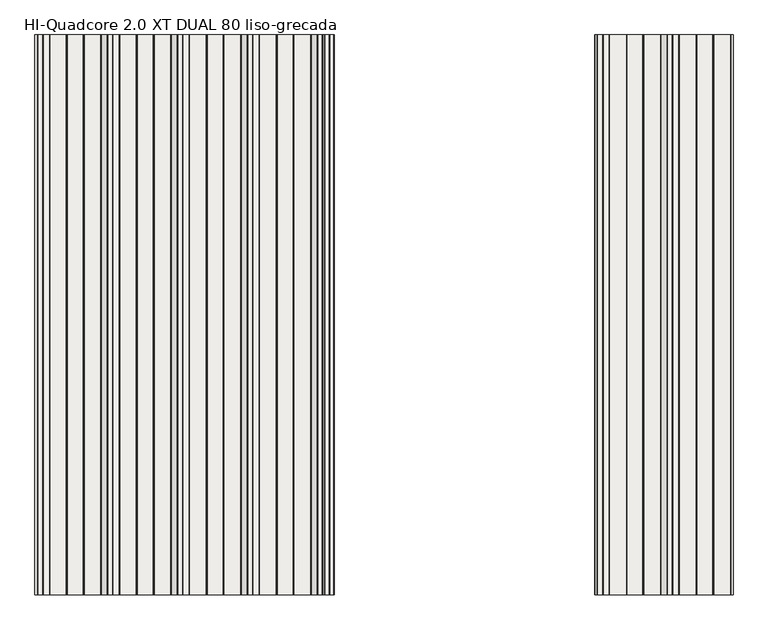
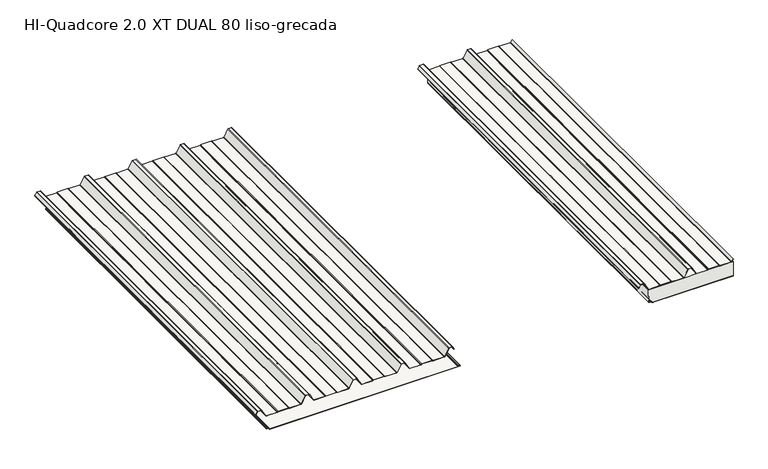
"""IFC4 building model written with IfcOpenShell, lengths in millimetres: slab geometry, HI_QuadCore2.0XT-XT DUAL : HI-Quadcore 2.0 XT DUAL 80 liso-grecada."""

from ifc_helpers import new_model, si_unit, point, frame, frame_2d, origin, place, context, project, spatial, polyline, circle_curve, trimmed, segment, composite_curve, outline, extrude, source, transform, mapped, element, save
from ifc_brep_helpers import plane_surface, cylinder_surface, revolved_surface, advanced_brep


def hi_quadcore_2_0_xt_dual_80_liso_grecada_9f1d5c36(model_context):
    return source(origin(), model_context, "Body", "SolidModel", [
        extrude(outline(composite_curve([segment(polyline([(118.1649405, 2138.5141429), (103.6579587, 2130.3539656)]), True, "CONTINUOUS"), segment(trimmed(circle_curve(frame_2d((103.0451321, 2131.443435)), 1.25), [point((103.6579587, 2130.3539656))], [point((102.689225, 2132.6416963))], False, "CARTESIAN"), True, "CONTINUOUS"), segment(polyline([(102.689225, 2132.6416963), (105.7359115, 2133.437141), (105.9380053, 2132.663088), (102.9074492, 2131.8718547)]), True, "CONTINUOUS"), segment(trimmed(circle_curve(frame_2d((103.0451321, 2131.443435)), 0.45), [point((102.9074492, 2131.8718547))], [point((103.2657497, 2131.051226))], True, "CARTESIAN"), True, "CONTINUOUS"), segment(polyline([(103.2657497, 2131.051226), (117.7727315, 2139.2114033)]), True, "CONTINUOUS"), segment(trimmed(circle_curve(frame_2d((116.4, 2141.6518148)), 2.8), [point((117.7727315, 2139.2114033))], [point((119.2, 2141.6518148))], True, "CARTESIAN"), True, "CONTINUOUS"), segment(polyline([(119.2, 2141.6518148), (119.2, 2158.9311117)]), True, "CONTINUOUS"), segment(trimmed(circle_curve(frame_2d((116.4, 2158.9311117)), 2.8), [point((119.2, 2158.9311117))], [point((117.5457267, 2161.4859719))], True, "CARTESIAN"), True, "CONTINUOUS"), segment(polyline([(117.5457267, 2161.4859719), (81.2048889, 2181.3052775)]), True, "CONTINUOUS"), segment(trimmed(circle_curve(frame_2d((83.0, 2184.6545425)), 3.8), [point((81.2048889, 2181.3052775))], [point((79.2, 2184.6545425))], False, "CARTESIAN"), True, "CONTINUOUS"), segment(polyline([(79.2, 2184.6545425), (79.2, 2242.4489557)]), True, "CONTINUOUS"), segment(trimmed(circle_curve(frame_2d((83.0, 2242.4489557)), 3.8), [point((79.2, 2242.4489557))], [point((79.6973596, 2244.328468))], False, "CARTESIAN"), True, "CONTINUOUS"), segment(polyline([(79.6973596, 2244.328468), (80.912055, 2246.4629056)]), True, "CONTINUOUS"), segment(trimmed(circle_curve(frame_2d((79.0, 2247.5510443)), 2.2), [point((80.912055, 2246.4629056))], [point((81.2, 2247.5510443))], True, "CARTESIAN"), True, "CONTINUOUS"), segment(polyline([(81.2, 2247.5510443), (81.2, 2302.4489557)]), True, "CONTINUOUS"), segment(trimmed(circle_curve(frame_2d((79.0, 2302.4489557)), 2.2), [point((81.2, 2302.4489557))], [point((80.912055, 2303.5370944))], True, "CARTESIAN"), True, "CONTINUOUS"), segment(polyline([(80.912055, 2303.5370944), (79.6973596, 2305.671532)]), True, "CONTINUOUS"), segment(trimmed(circle_curve(frame_2d((83.0, 2307.5510443)), 3.8), [point((79.6973596, 2305.671532))], [point((79.2, 2307.5510443))], False, "CARTESIAN"), True, "CONTINUOUS"), segment(polyline([(79.2, 2307.5510443), (79.2, 2365.7454575)]), True, "CONTINUOUS"), segment(trimmed(circle_curve(frame_2d((83.0, 2365.7454575)), 3.8), [point((79.2, 2365.7454575))], [point((81.1370073, 2369.0574446))], False, "CARTESIAN"), True, "CONTINUOUS"), segment(polyline([(81.1370073, 2369.0574446), (118.0785747, 2389.8370763)]), True, "CONTINUOUS"), segment(trimmed(circle_curve(frame_2d((117.0, 2391.7545425)), 2.2), [point((118.0785747, 2389.8370763))], [point((119.2, 2391.7545425))], True, "CARTESIAN"), True, "CONTINUOUS"), segment(polyline([(119.2, 2391.7545425), (119.2, 2408.2454575)]), True, "CONTINUOUS"), segment(trimmed(circle_curve(frame_2d((117.0, 2408.2454575)), 2.2), [point((119.2, 2408.2454575))], [point((118.0785747, 2410.1629237))], True, "CARTESIAN"), True, "CONTINUOUS"), segment(polyline([(118.0785747, 2410.1629237), (81.1370073, 2430.9425554)]), True, "CONTINUOUS"), segment(trimmed(circle_curve(frame_2d((83.0, 2434.2545425)), 3.8), [point((81.1370073, 2430.9425554))], [point((79.2, 2434.2545425))], False, "CARTESIAN"), True, "CONTINUOUS"), segment(polyline([(79.2, 2434.2545425), (79.2, 2492.4489557)]), True, "CONTINUOUS"), segment(trimmed(circle_curve(frame_2d((83.0, 2492.4489557)), 3.8), [point((79.2, 2492.4489557))], [point((79.6973596, 2494.328468))], False, "CARTESIAN"), True, "CONTINUOUS"), segment(polyline([(79.6973596, 2494.328468), (80.912055, 2496.4629056)]), True, "CONTINUOUS"), segment(trimmed(circle_curve(frame_2d((79.0, 2497.5510443)), 2.2), [point((80.912055, 2496.4629056))], [point((81.2, 2497.5510443))], True, "CARTESIAN"), True, "CONTINUOUS"), segment(polyline([(81.2, 2497.5510443), (81.2, 2552.4489557)]), True, "CONTINUOUS"), segment(trimmed(circle_curve(frame_2d((79.0, 2552.4489557)), 2.2), [point((81.2, 2552.4489557))], [point((80.912055, 2553.5370944))], True, "CARTESIAN"), True, "CONTINUOUS"), segment(polyline([(80.912055, 2553.5370944), (79.6973596, 2555.671532)]), True, "CONTINUOUS"), segment(trimmed(circle_curve(frame_2d((83.0, 2557.5510443)), 3.8), [point((79.6973596, 2555.671532))], [point((79.2, 2557.5510443))], False, "CARTESIAN"), True, "CONTINUOUS"), segment(polyline([(79.2, 2557.5510443), (79.2, 2615.7454575)]), True, "CONTINUOUS"), segment(trimmed(circle_curve(frame_2d((83.0, 2615.7454575)), 3.8), [point((79.2, 2615.7454575))], [point((81.1370073, 2619.0574446))], False, "CARTESIAN"), True, "CONTINUOUS"), segment(polyline([(81.1370073, 2619.0574446), (91.582282, 2624.9329116), (93.214065, 2624.9329116), (81.5292163, 2618.3601842)]), True, "CONTINUOUS"), segment(trimmed(circle_curve(frame_2d((83.0, 2615.7454575)), 3.0), [point((81.5292163, 2618.3601842))], [point((80.0, 2615.7454575))], True, "CARTESIAN"), True, "CONTINUOUS"), segment(polyline([(80.0, 2615.7454575), (80.0, 2557.5510443)]), True, "CONTINUOUS"), segment(trimmed(circle_curve(frame_2d((83.0, 2557.5510443)), 3.0), [point((80.0, 2557.5510443))], [point((80.3926523, 2556.0672188))], True, "CARTESIAN"), True, "CONTINUOUS"), segment(polyline([(80.3926523, 2556.0672188), (81.6073477, 2553.9327812)]), True, "CONTINUOUS"), segment(trimmed(circle_curve(frame_2d((79.0, 2552.4489557)), 3.0), [point((81.6073477, 2553.9327812))], [point((82.0, 2552.4489557))], False, "CARTESIAN"), True, "CONTINUOUS"), segment(polyline([(82.0, 2552.4489557), (82.0, 2497.5510443)]), True, "CONTINUOUS"), segment(trimmed(circle_curve(frame_2d((79.0, 2497.5510443)), 3.0), [point((82.0, 2497.5510443))], [point((81.6073477, 2496.0672188))], False, "CARTESIAN"), True, "CONTINUOUS"), segment(polyline([(81.6073477, 2496.0672188), (80.3926523, 2493.9327812)]), True, "CONTINUOUS"), segment(trimmed(circle_curve(frame_2d((83.0, 2492.4489557)), 3.0), [point((80.3926523, 2493.9327812))], [point((80.0, 2492.4489557))], True, "CARTESIAN"), True, "CONTINUOUS"), segment(polyline([(80.0, 2492.4489557), (80.0, 2434.2545425)]), True, "CONTINUOUS"), segment(trimmed(circle_curve(frame_2d((83.0, 2434.2545425)), 3.0), [point((80.0, 2434.2545425))], [point((81.5292163, 2431.6398158))], True, "CARTESIAN"), True, "CONTINUOUS"), segment(polyline([(81.5292163, 2431.6398158), (118.4707837, 2410.8601842)]), True, "CONTINUOUS"), segment(trimmed(circle_curve(frame_2d((117.0, 2408.2454575)), 3.0), [point((118.4707837, 2410.8601842))], [point((120.0, 2408.2454575))], False, "CARTESIAN"), True, "CONTINUOUS"), segment(polyline([(120.0, 2408.2454575), (120.0, 2391.7545425)]), True, "CONTINUOUS"), segment(trimmed(circle_curve(frame_2d((117.0, 2391.7545425)), 3.0), [point((120.0, 2391.7545425))], [point((118.4707837, 2389.1398158))], False, "CARTESIAN"), True, "CONTINUOUS"), segment(polyline([(118.4707837, 2389.1398158), (81.5292163, 2368.3601842)]), True, "CONTINUOUS"), segment(trimmed(circle_curve(frame_2d((83.0, 2365.7454575)), 3.0), [point((81.5292163, 2368.3601842))], [point((80.0, 2365.7454575))], True, "CARTESIAN"), True, "CONTINUOUS"), segment(polyline([(80.0, 2365.7454575), (80.0, 2307.5510443)]), True, "CONTINUOUS"), segment(trimmed(circle_curve(frame_2d((83.0, 2307.5510443)), 3.0), [point((80.0, 2307.5510443))], [point((80.3926523, 2306.0672188))], True, "CARTESIAN"), True, "CONTINUOUS"), segment(polyline([(80.3926523, 2306.0672188), (81.6073477, 2303.9327812)]), True, "CONTINUOUS"), segment(trimmed(circle_curve(frame_2d((79.0, 2302.4489557)), 3.0), [point((81.6073477, 2303.9327812))], [point((82.0, 2302.4489557))], False, "CARTESIAN"), True, "CONTINUOUS"), segment(polyline([(82.0, 2302.4489557), (82.0, 2247.5510443)]), True, "CONTINUOUS"), segment(trimmed(circle_curve(frame_2d((79.0, 2247.5510443)), 3.0), [point((82.0, 2247.5510443))], [point((81.6073477, 2246.0672188))], False, "CARTESIAN"), True, "CONTINUOUS"), segment(polyline([(81.6073477, 2246.0672188), (80.3926523, 2243.9327812)]), True, "CONTINUOUS"), segment(trimmed(circle_curve(frame_2d((83.0, 2242.4489557)), 3.0), [point((80.3926523, 2243.9327812))], [point((80.0, 2242.4489557))], True, "CARTESIAN"), True, "CONTINUOUS"), segment(polyline([(80.0, 2242.4489557), (80.0, 2184.6545425)]), True, "CONTINUOUS"), segment(trimmed(circle_curve(frame_2d((83.0, 2184.6545425)), 3.0), [point((80.0, 2184.6545425))], [point((81.5852209, 2182.0090935))], True, "CARTESIAN"), True, "CONTINUOUS"), segment(polyline([(81.5852209, 2182.0090935), (117.9031732, 2162.2022691)]), True, "CONTINUOUS"), segment(trimmed(circle_curve(frame_2d((116.4, 2158.9311117)), 3.6), [point((117.9031732, 2162.2022691))], [point((120.0, 2158.9311117))], False, "CARTESIAN"), True, "CONTINUOUS"), segment(polyline([(120.0, 2158.9311117), (120.0, 2141.6518148)]), True, "CONTINUOUS"), segment(trimmed(circle_curve(frame_2d((116.4, 2141.6518148)), 3.6), [point((120.0, 2141.6518148))], [point((118.1649405, 2138.5141429))], False, "CARTESIAN"), True, "CONTINUOUS")], self_intersect=False)), frame((0.0, 0.0, 0.0), z_axis=(0.0, 1.0, 0.0), x_axis=(0.0, 0.0, 1.0)), (0.0, 0.0, 1.0), 2000.0),
        extrude(outline(composite_curve([segment(trimmed(circle_curve(frame_2d((11.9759207, 2187.8456418)), 2.0), [point((13.390095, 2186.4313891))], [point((11.9758652, 2185.8456418))], False, "CARTESIAN"), True, "CONTINUOUS"), segment(polyline([(11.9758652, 2185.8456418), (8.333684, 2185.8457428)]), True, "CONTINUOUS"), segment(trimmed(circle_curve(frame_2d((8.3337394, 2187.8457428)), 2.0), [point((8.333684, 2185.8457428))], [point((6.3390802, 2187.6996787))], False, "CARTESIAN"), True, "CONTINUOUS"), segment(polyline([(6.3390802, 2187.6996787), (5.5769243, 2198.1077232)]), True, "CONTINUOUS"), segment(trimmed(circle_curve(frame_2d((3.5874027, 2197.9032632)), 2.0), [point((5.5769243, 2198.1077232))], [point((3.5874582, 2199.9032632))], True, "CARTESIAN"), True, "CONTINUOUS"), segment(polyline([(3.5874582, 2199.9032632), (1.9861383, 2199.9033076)]), True, "CONTINUOUS"), segment(trimmed(circle_curve(frame_2d((1.9861938, 2201.9033076)), 2.0), [point((1.9861383, 2199.9033076))], [point((-0.0138062, 2201.903363))], False, "CARTESIAN"), True, "CONTINUOUS"), segment(polyline([(-0.0138062, 2201.903363), (-0.0020786, 2624.9329116), (0.7979214, 2624.9329116), (0.7861938, 2201.9033408)]), True, "CONTINUOUS"), segment(trimmed(circle_curve(frame_2d((1.9861938, 2201.9033076)), 1.2), [point((0.7861938, 2201.9033408))], [point((1.9861605, 2200.7033076))], True, "CARTESIAN"), True, "CONTINUOUS"), segment(polyline([(1.9861605, 2200.7033076), (3.5874804, 2200.7032632)]), True, "CONTINUOUS"), segment(trimmed(circle_curve(frame_2d((3.5874027, 2197.9032632)), 2.8), [point((3.5874804, 2200.7032632))], [point((6.3740035, 2198.1768616))], False, "CARTESIAN"), True, "CONTINUOUS"), segment(polyline([(6.3740035, 2198.1768616), (7.1369439, 2187.7581044)]), True, "CONTINUOUS"), segment(trimmed(circle_curve(frame_2d((8.3337394, 2187.8457428)), 1.2), [point((7.1369439, 2187.7581044))], [point((8.3337062, 2186.6457428))], True, "CARTESIAN"), True, "CONTINUOUS"), segment(polyline([(8.3337062, 2186.6457428), (11.9758874, 2186.6456418)]), True, "CONTINUOUS"), segment(trimmed(circle_curve(frame_2d((11.9759207, 2187.8456418)), 1.2), [point((11.9758874, 2186.6456418))], [point((12.8244253, 2186.9970902))], True, "CARTESIAN"), True, "CONTINUOUS"), segment(polyline([(12.8244253, 2186.9970902), (14.9306702, 2189.1032183), (15.4963556, 2188.5375329), (13.390095, 2186.4313891)]), True, "CONTINUOUS")], self_intersect=False)), frame((0.0, 0.0, 0.0), z_axis=(0.0, 1.0, 0.0), x_axis=(0.0, 0.0, 1.0)), (0.0, 0.0, 1.0), 2000.0),
        extrude(outline(composite_curve([segment(polyline([(14.9306702, 2189.1032183), (12.8244253, 2186.9970902)]), True, "CONTINUOUS"), segment(trimmed(circle_curve(frame_2d((11.9759207, 2187.8456418)), 1.2), [point((12.8244253, 2186.9970902))], [point((11.9758874, 2186.6456418))], False, "CARTESIAN"), True, "CONTINUOUS"), segment(polyline([(11.9758874, 2186.6456418), (8.3337062, 2186.6457428)]), True, "CONTINUOUS"), segment(trimmed(circle_curve(frame_2d((8.3337394, 2187.8457428)), 1.2), [point((8.3337062, 2186.6457428))], [point((7.1369439, 2187.7581044))], False, "CARTESIAN"), True, "CONTINUOUS"), segment(polyline([(7.1369439, 2187.7581044), (6.3740035, 2198.1768616)]), True, "CONTINUOUS"), segment(trimmed(circle_curve(frame_2d((3.5874027, 2197.9032632)), 2.8), [point((6.3740035, 2198.1768616))], [point((3.5874804, 2200.7032632))], True, "CARTESIAN"), True, "CONTINUOUS"), segment(polyline([(3.5874804, 2200.7032632), (1.9861605, 2200.7033076)]), True, "CONTINUOUS"), segment(trimmed(circle_curve(frame_2d((1.9861938, 2201.9033076)), 1.2), [point((1.9861605, 2200.7033076))], [point((0.7861938, 2201.9033408))], False, "CARTESIAN"), True, "CONTINUOUS"), segment(polyline([(0.7861938, 2201.9033408), (0.7979214, 2624.9329116), (78.0, 2624.9329116), (78.0, 2181.4416817), (7.0308356, 2184.4622222), (7.2414508, 2185.8457731), (11.9758652, 2185.8456418)]), True, "CONTINUOUS"), segment(trimmed(circle_curve(frame_2d((11.9759207, 2187.8456418)), 2.0), [point((11.9758652, 2185.8456418))], [point((13.390095, 2186.4313891))], True, "CARTESIAN"), True, "CONTINUOUS"), segment(polyline([(13.390095, 2186.4313891), (15.4963556, 2188.5375329), (14.9306702, 2189.1032183)]), True, "CONTINUOUS")], self_intersect=False)), frame((0.0, 0.0, 0.0), z_axis=(0.0, 1.0, 0.0), x_axis=(0.0, 0.0, 1.0)), (0.0, 0.0, 1.0), 2000.0),
        advanced_brep(
        [(186.4313891, 0.0, 13.3795578), (185.8456418, 0.0, 11.9654043), (185.8456037, 0.0, 8.2995811), (187.6996787, 0.0, 6.328543), (198.1077232, 0.0, 5.5663871), (199.9032632, 0.0, 3.5769209), (199.9033076, 0.0, 1.9756011), (201.903363, 0.0, -0.0243435), (1197.9162803, 0.0, 0.003269), (1199.9046779, 0.0, 2.0032908), (1199.904653, 0.0, 2.9012893), (1198.0077486, 0.0, 4.8985749), (1186.1928118, 0.0, 5.7933732), (1184.3438482, 0.0, 7.7876066), (1184.3437386, 0.0, 11.7402379), (1183.757913, 0.0, 13.1544352), (1182.3436602, 0.0, 14.5686095), (1181.7779748, 0.0, 14.0029241), (1183.1922433, 0.0, 12.5887341), (1183.5437386, 0.0, 11.7402157), (1183.5438482, 0.0, 7.7875844), (1186.1323972, 0.0, 4.9956577), (1197.958132, 0.0, 4.1000416), (1199.104653, 0.0, 2.9012672), (1199.1046779, 0.0, 2.0032686), (1197.9136554, 0.0, 0.8032689), (201.9033408, 0.0, 0.7756565), (200.7033076, 0.0, 1.9756233), (200.7032632, 0.0, 3.5769431), (198.1768616, 0.0, 6.3634663), (187.7581044, 0.0, 7.1264067), (186.6457428, 0.0, 8.3231689), (186.6456418, 0.0, 11.965396), (186.9970902, 0.0, 12.8138881), (189.1032183, 0.0, 14.920133), (188.5375329, 0.0, 15.4858184), (186.4313891, 2000.0, 13.3795578), (188.5375329, 2000.0, 15.4858184), (189.1032183, 2000.0, 14.920133), (186.9970902, 2000.0, 12.8138881), (186.6456418, 2000.0, 11.965396), (186.6456037, 2000.0, 8.2995728), (187.7581044, 2000.0, 7.1264067), (198.1768616, 2000.0, 6.3634663), (200.7032632, 2000.0, 3.5769431), (200.7033076, 2000.0, 1.9756233), (201.9033408, 2000.0, 0.7756565), (1197.9136554, 2000.0, 0.8032689), (1199.1046779, 2000.0, 2.0032686), (1199.104653, 2000.0, 2.9012672), (1197.958132, 2000.0, 4.1000416), (1186.1323972, 2000.0, 4.9956577), (1183.5438482, 2000.0, 7.7875844), (1183.5437386, 2000.0, 11.7402157), (1183.1922433, 2000.0, 12.5887341), (1181.7779748, 2000.0, 14.0029241), (1182.3436602, 2000.0, 14.5686095), (1183.757913, 2000.0, 13.1544352), (1184.3437386, 2000.0, 11.7402379), (1184.3438482, 2000.0, 7.7876066), (1186.1928118, 2000.0, 5.7933732), (1198.0077486, 2000.0, 4.8985749), (1199.904653, 2000.0, 2.9012893), (1199.9046779, 2000.0, 2.0032908), (1197.9162803, 2000.0, 0.003269), (201.903363, 2000.0, -0.0243435), (199.9033076, 2000.0, 1.9756011), (199.9032632, 2000.0, 3.5769209), (198.1077232, 2000.0, 5.5663871), (187.6996787, 2000.0, 6.328543), (185.8457428, 2000.0, 8.3231467), (185.8456418, 2000.0, 11.9654043)],
        [
            (0, 1, circle_curve(frame((187.8456418, 0.0, 11.9653834), z_axis=(0.0, -1.0, 0.0), x_axis=(1.0, 0.0, 0.0)), 2.0)),
            (1, 2),
            (2, 3, circle_curve(frame((187.8457428, 0.0, 8.3232022), z_axis=(0.0, -1.0, 0.0), x_axis=(1.0, 0.0, 0.0)), 2.0)),
            (3, 4),
            (4, 5, circle_curve(frame((197.9032632, 0.0, 3.5768655), z_axis=(0.0, 1.0, 0.0), x_axis=(1.0, 0.0, 0.0)), 2.0)),
            (5, 6),
            (6, 7, circle_curve(frame((201.9033076, 0.0, 1.9756565), z_axis=(0.0, -1.0, 0.0), x_axis=(1.0, 0.0, 0.0)), 2.0)),
            (7, 8),
            (8, 9, circle_curve(frame((1197.9046779, 0.0, 2.0032353), z_axis=(0.0, -1.0, 0.0), x_axis=(1.0, 0.0, 0.0)), 2.0)),
            (9, 10),
            (10, 11, circle_curve(frame((1197.904653, 0.0, 2.9012339), z_axis=(0.0, -1.0, 0.0), x_axis=(1.0, 0.0, 0.0)), 2.0)),
            (11, 12),
            (12, 13, circle_curve(frame((1186.3438482, 0.0, 7.7876621), z_axis=(0.0, 1.0, 0.0), x_axis=(1.0, 0.0, 0.0)), 2.0)),
            (13, 14),
            (14, 15, circle_curve(frame((1182.3437386, 0.0, 11.7401824), z_axis=(0.0, -1.0, 0.0), x_axis=(1.0, 0.0, 0.0)), 2.0)),
            (15, 16),
            (16, 17),
            (17, 18),
            (18, 19, circle_curve(frame((1182.3437386, 0.0, 11.7401824), z_axis=(0.0, 1.0, 0.0), x_axis=(1.0, 0.0, 0.0)), 1.2)),
            (19, 20),
            (20, 21, circle_curve(frame((1186.3438482, 0.0, 7.7876621), z_axis=(0.0, -1.0, 0.0), x_axis=(1.0, 0.0, 0.0)), 2.8)),
            (21, 22),
            (22, 23, circle_curve(frame((1197.904653, 0.0, 2.9012339), z_axis=(0.0, 1.0, 0.0), x_axis=(1.0, 0.0, 0.0)), 1.2)),
            (23, 24),
            (24, 25, circle_curve(frame((1197.9046779, 0.0, 2.0032353), z_axis=(0.0, 1.0, 0.0), x_axis=(1.0, 0.0, 0.0)), 1.2)),
            (25, 26),
            (26, 27, circle_curve(frame((201.9033076, 0.0, 1.9756565), z_axis=(0.0, 1.0, 0.0), x_axis=(1.0, 0.0, 0.0)), 1.2)),
            (27, 28),
            (28, 29, circle_curve(frame((197.9032632, 0.0, 3.5768655), z_axis=(0.0, -1.0, 0.0), x_axis=(1.0, 0.0, 0.0)), 2.8)),
            (29, 30),
            (30, 31, circle_curve(frame((187.8457428, 0.0, 8.3232022), z_axis=(0.0, 1.0, 0.0), x_axis=(1.0, 0.0, 0.0)), 1.2)),
            (31, 32),
            (32, 33, circle_curve(frame((187.8456418, 0.0, 11.9653834), z_axis=(0.0, 1.0, 0.0), x_axis=(1.0, 0.0, 0.0)), 1.2)),
            (33, 34),
            (34, 35),
            (35, 0),
            (36, 37),
            (37, 38),
            (38, 39),
            (39, 40, circle_curve(frame((187.8456418, 2000.0, 11.9653834), z_axis=(0.0, -1.0, 0.0), x_axis=(1.0, 0.0, 0.0)), 1.2)),
            (40, 41),
            (41, 42, circle_curve(frame((187.8457428, 2000.0, 8.3232022), z_axis=(0.0, -1.0, 0.0), x_axis=(1.0, 0.0, 0.0)), 1.2)),
            (42, 43),
            (43, 44, circle_curve(frame((197.9032632, 2000.0, 3.5768655), z_axis=(0.0, 1.0, 0.0), x_axis=(1.0, 0.0, 0.0)), 2.8)),
            (44, 45),
            (45, 46, circle_curve(frame((201.9033076, 2000.0, 1.9756565), z_axis=(0.0, -1.0, 0.0), x_axis=(1.0, 0.0, 0.0)), 1.2)),
            (46, 47),
            (47, 48, circle_curve(frame((1197.9046779, 2000.0, 2.0032353), z_axis=(0.0, -1.0, 0.0), x_axis=(1.0, 0.0, 0.0)), 1.2)),
            (48, 49),
            (49, 50, circle_curve(frame((1197.904653, 2000.0, 2.9012339), z_axis=(0.0, -1.0, 0.0), x_axis=(1.0, 0.0, 0.0)), 1.2)),
            (50, 51),
            (51, 52, circle_curve(frame((1186.3438482, 2000.0, 7.7876621), z_axis=(0.0, 1.0, 0.0), x_axis=(1.0, 0.0, 0.0)), 2.8)),
            (52, 53),
            (53, 54, circle_curve(frame((1182.3437386, 2000.0, 11.7401824), z_axis=(0.0, -1.0, 0.0), x_axis=(1.0, 0.0, 0.0)), 1.2)),
            (54, 55),
            (55, 56),
            (56, 57),
            (57, 58, circle_curve(frame((1182.3437386, 2000.0, 11.7401824), z_axis=(0.0, 1.0, 0.0), x_axis=(1.0, 0.0, 0.0)), 2.0)),
            (58, 59),
            (59, 60, circle_curve(frame((1186.3438482, 2000.0, 7.7876621), z_axis=(0.0, -1.0, 0.0), x_axis=(1.0, 0.0, 0.0)), 2.0)),
            (60, 61),
            (61, 62, circle_curve(frame((1197.904653, 2000.0, 2.9012339), z_axis=(0.0, 1.0, 0.0), x_axis=(1.0, 0.0, 0.0)), 2.0)),
            (62, 63),
            (63, 64, circle_curve(frame((1197.9046779, 2000.0, 2.0032353), z_axis=(0.0, 1.0, 0.0), x_axis=(1.0, 0.0, 0.0)), 2.0)),
            (64, 65),
            (65, 66, circle_curve(frame((201.9033076, 2000.0, 1.9756565), z_axis=(0.0, 1.0, 0.0), x_axis=(1.0, 0.0, 0.0)), 2.0)),
            (66, 67),
            (67, 68, circle_curve(frame((197.9032632, 2000.0, 3.5768655), z_axis=(0.0, -1.0, 0.0), x_axis=(1.0, 0.0, 0.0)), 2.0)),
            (68, 69),
            (69, 70, circle_curve(frame((187.8457428, 2000.0, 8.3232022), z_axis=(0.0, 1.0, 0.0), x_axis=(1.0, 0.0, 0.0)), 2.0)),
            (70, 71),
            (71, 36, circle_curve(frame((187.8456418, 2000.0, 11.9653834), z_axis=(0.0, 1.0, 0.0), x_axis=(1.0, 0.0, 0.0)), 2.0)),
            (0, 36),
            (71, 1),
            (70, 2),
            (69, 3),
            (68, 4),
            (67, 5),
            (66, 6),
            (65, 7),
            (64, 8),
            (63, 9),
            (62, 10),
            (61, 11),
            (60, 12),
            (59, 13),
            (58, 14),
            (57, 15),
            (56, 16),
            (55, 17),
            (54, 18),
            (53, 19),
            (52, 20),
            (51, 21),
            (50, 22),
            (49, 23),
            (48, 24),
            (47, 25),
            (46, 26),
            (45, 27),
            (44, 28),
            (43, 29),
            (42, 30),
            (41, 31),
            (40, 32),
            (39, 33),
            (38, 34),
            (37, 35),
        ],
        [
            plane_surface(frame((189.8456418, 0.0, 11.9653834), z_axis=(0.0, -1.0, 0.0), x_axis=(0.0, 0.0, 1.0))),
            plane_surface(frame((189.8456418, 2000.0, 11.9653834), z_axis=(0.0, 1.0, 0.0), x_axis=(0.0, 0.0, -1.0))),
            cylinder_surface(frame((187.8456418, 2000.0, 11.9653834), z_axis=(0.0, -1.0, 0.0), x_axis=(1.0, 0.0, 0.0)), 2.0),
            plane_surface(frame((185.8456418, 0.0, 11.9654043), z_axis=(-0.9999999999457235, 0.0, 1.041887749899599e-05), x_axis=(0.0, 1.0, 0.0))),
            cylinder_surface(frame((187.8457428, 2000.0, 8.3232022), z_axis=(0.0, -1.0, 0.0), x_axis=(1.0, 0.0, 0.0)), 2.0),
            plane_surface(frame((187.6996787, 0.0, 6.328543), z_axis=(-0.07303203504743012, 0.0, -0.9973295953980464), x_axis=(0.0, 1.0, 0.0))),
            revolved_surface(polyline([(199.9032632, 2000.0, 3.5768655), (199.9032632, 0.0, 3.5768655)]), (197.9032632, 2000.0, 3.5768655), (0.0, 1.0, 0.0)),
            plane_surface(frame((199.9032632, 0.0, 3.5769209), z_axis=(-0.9999999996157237, 0.0, -2.7722781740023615e-05), x_axis=(0.0, 1.0, 0.0))),
            cylinder_surface(frame((201.9033076, 2000.0, 1.9756565), z_axis=(0.0, -1.0, 0.0), x_axis=(1.0, 0.0, 0.0)), 2.0),
            plane_surface(frame((201.903363, 0.0, -0.0243435), z_axis=(2.772298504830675e-05, 0.0, -0.9999999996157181), x_axis=(0.0, 1.0, 0.0))),
            cylinder_surface(frame((1197.9046779, 2000.0, 2.0032353), z_axis=(0.0, -1.0, 0.0), x_axis=(1.0, 0.0, 0.0)), 2.0),
            plane_surface(frame((1199.9046779, 0.0, 2.0032908), z_axis=(0.9999999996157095, 0.0, 2.7723295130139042e-05), x_axis=(0.0, 1.0, 0.0))),
            cylinder_surface(frame((1197.904653, 2000.0, 2.9012339), z_axis=(0.0, -1.0, 0.0), x_axis=(1.0, 0.0, 0.0)), 2.0),
            plane_surface(frame((1198.0077486, 0.0, 4.8985749), z_axis=(0.07551822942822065, 0.0, 0.9971444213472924), x_axis=(0.0, 1.0, 0.0))),
            revolved_surface(polyline([(1188.3438482, 2000.0, 7.7876621), (1188.3438482, 0.0, 7.7876621)]), (1186.3438482, 2000.0, 7.7876621), (0.0, 1.0, 0.0)),
            plane_surface(frame((1184.3438482, 0.0, 7.7876066), z_axis=(0.9999999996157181, 0.0, 2.7722984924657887e-05), x_axis=(0.0, 1.0, 0.0))),
            cylinder_surface(frame((1182.3437386, 2000.0, 11.7401824), z_axis=(0.0, -1.0, 0.0), x_axis=(1.0, 0.0, 0.0)), 2.0),
            plane_surface(frame((1183.757913, 0.0, 13.1544352), z_axis=(0.7070871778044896, 0.0, 0.7071263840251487), x_axis=(0.0, 1.0, 0.0))),
            plane_surface(frame((1182.3436602, 0.0, 14.5686095), z_axis=(-0.7071067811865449, 0.0, 0.7071067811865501), x_axis=(0.0, 1.0, 0.0))),
            plane_surface(frame((1181.7779748, 0.0, 14.0029241), z_axis=(-0.7070871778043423, 0.0, -0.707126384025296), x_axis=(0.0, 1.0, 0.0))),
            revolved_surface(polyline([(1183.5437386, 2000.0, 11.7401824), (1183.5437386, 0.0, 11.7401824)]), (1182.3437386, 2000.0, 11.7401824), (0.0, 1.0, 0.0)),
            plane_surface(frame((1183.5437386, 0.0, 11.7402157), z_axis=(-0.9999999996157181, 0.0, -2.7722985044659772e-05), x_axis=(0.0, 1.0, 0.0))),
            cylinder_surface(frame((1186.3438482, 2000.0, 7.7876621), z_axis=(0.0, -1.0, 0.0), x_axis=(1.0, 0.0, 0.0)), 2.8),
            plane_surface(frame((1186.1323972, 0.0, 4.9956577), z_axis=(-0.07551822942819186, 0.0, -0.9971444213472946), x_axis=(0.0, 1.0, 0.0))),
            revolved_surface(polyline([(1199.104653, 2000.0, 2.9012339), (1199.104653, 0.0, 2.9012339)]), (1197.904653, 2000.0, 2.9012339), (0.0, 1.0, 0.0)),
            plane_surface(frame((1199.104653, 0.0, 2.9012672), z_axis=(-0.9999999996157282, 0.0, -2.7722622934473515e-05), x_axis=(0.0, 1.0, 0.0))),
            revolved_surface(polyline([(1199.1046779, 2000.0, 2.0032353), (1199.1046779, 0.0, 2.0032353)]), (1197.9046779, 2000.0, 2.0032353), (0.0, 1.0, 0.0)),
            plane_surface(frame((1197.9136554, 0.0, 0.8032689), z_axis=(-2.7722985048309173e-05, 0.0, 0.9999999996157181), x_axis=(0.0, 1.0, 0.0))),
            revolved_surface(polyline([(203.1033076, 2000.0, 1.9756565), (203.1033076, 0.0, 1.9756565)]), (201.9033076, 2000.0, 1.9756565), (0.0, 1.0, 0.0)),
            plane_surface(frame((200.7033076, 0.0, 1.9756233), z_axis=(0.9999999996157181, 0.0, 2.7722983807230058e-05), x_axis=(0.0, 1.0, 0.0))),
            cylinder_surface(frame((197.9032632, 2000.0, 3.5768655), z_axis=(0.0, -1.0, 0.0), x_axis=(1.0, 0.0, 0.0)), 2.8),
            plane_surface(frame((198.1768616, 0.0, 6.3634663), z_axis=(0.0730320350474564, 0.0, 0.9973295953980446), x_axis=(0.0, 1.0, 0.0))),
            revolved_surface(polyline([(189.0457428, 2000.0, 8.3232022), (189.0457428, 0.0, 8.3232022)]), (187.8457428, 2000.0, 8.3232022), (0.0, 1.0, 0.0)),
            plane_surface(frame((186.6456037, 0.0, 8.2995728), z_axis=(0.9999999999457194, 0.0, -1.0419274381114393e-05), x_axis=(0.0, 1.0, 0.0))),
            revolved_surface(polyline([(189.0456418, 2000.0, 11.9653834), (189.0456418, 0.0, 11.9653834)]), (187.8456418, 2000.0, 11.9653834), (0.0, 1.0, 0.0)),
            plane_surface(frame((186.9970902, 0.0, 12.8138881), z_axis=(0.7071263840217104, 0.0, -0.7070871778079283), x_axis=(0.0, 1.0, 0.0))),
            plane_surface(frame((189.1032183, 0.0, 14.920133), z_axis=(0.7071067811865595, 0.0, 0.7071067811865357), x_axis=(0.0, 1.0, 0.0))),
            plane_surface(frame((188.5375329, 0.0, 15.4858184), z_axis=(-0.7071263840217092, 0.0, 0.7070871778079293), x_axis=(0.0, 1.0, 0.0))),
        ],
        [
            (0, [[1, 2, 3, 4, 5, 6, 7, 8, 9, 10, 11, 12, 13, 14, 15, 16, 17, 18, 19, 20, 21, 22, 23, 24, 25, 26, 27, 28, 29, 30, 31, 32, 33, 34, 35, 36]]),
            (1, [[37, 38, 39, 40, 41, 42, 43, 44, 45, 46, 47, 48, 49, 50, 51, 52, 53, 54, 55, 56, 57, 58, 59, 60, 61, 62, 63, 64, 65, 66, 67, 68, 69, 70, 71, 72]]),
            (2, [[-1, 73, -72, 74]]),
            (3, [[-2, -74, -71, 75]]),
            (4, [[-3, -75, -70, 76]]),
            (5, [[-4, -76, -69, 77]]),
            (6, [[-5, -77, -68, 78]]),
            (7, [[-6, -78, -67, 79]]),
            (8, [[-7, -79, -66, 80]]),
            (9, [[-8, -80, -65, 81]]),
            (10, [[-9, -81, -64, 82]]),
            (11, [[-10, -82, -63, 83]]),
            (12, [[-11, -83, -62, 84]]),
            (13, [[-12, -84, -61, 85]]),
            (14, [[-13, -85, -60, 86]]),
            (15, [[-14, -86, -59, 87]]),
            (16, [[-15, -87, -58, 88]]),
            (17, [[-16, -88, -57, 89]]),
            (18, [[-17, -89, -56, 90]]),
            (19, [[-18, -90, -55, 91]]),
            (20, [[-19, -91, -54, 92]]),
            (21, [[-20, -92, -53, 93]]),
            (22, [[-21, -93, -52, 94]]),
            (23, [[-22, -94, -51, 95]]),
            (24, [[-23, -95, -50, 96]]),
            (25, [[-24, -96, -49, 97]]),
            (26, [[-25, -97, -48, 98]]),
            (27, [[-26, -98, -47, 99]]),
            (28, [[-27, -99, -46, 100]]),
            (29, [[-28, -100, -45, 101]]),
            (30, [[-29, -101, -44, 102]]),
            (31, [[-30, -102, -43, 103]]),
            (32, [[-31, -103, -42, 104]]),
            (33, [[-32, -104, -41, 105]]),
            (34, [[-33, -105, -40, 106]]),
            (35, [[-34, -106, -39, 107]]),
            (36, [[-35, -107, -38, 108]]),
            (37, [[-36, -108, -37, -73]]),
        ],
    ),
        extrude(outline(composite_curve([segment(polyline([(118.1649405, 138.5141429), (103.6579587, 130.3539656)]), True, "CONTINUOUS"), segment(trimmed(circle_curve(frame_2d((103.0451321, 131.443435)), 1.25), [point((103.6579587, 130.3539656))], [point((102.689225, 132.6416963))], False, "CARTESIAN"), True, "CONTINUOUS"), segment(polyline([(102.689225, 132.6416963), (105.7359115, 133.437141), (105.9380053, 132.663088), (102.9074492, 131.8718547)]), True, "CONTINUOUS"), segment(trimmed(circle_curve(frame_2d((103.0451321, 131.443435)), 0.45), [point((102.9074492, 131.8718547))], [point((103.2657497, 131.051226))], True, "CARTESIAN"), True, "CONTINUOUS"), segment(polyline([(103.2657497, 131.051226), (117.7727315, 139.2114033)]), True, "CONTINUOUS"), segment(trimmed(circle_curve(frame_2d((116.4, 141.6518148)), 2.8), [point((117.7727315, 139.2114033))], [point((119.2, 141.6518148))], True, "CARTESIAN"), True, "CONTINUOUS"), segment(polyline([(119.2, 141.6518148), (119.2, 158.9311117)]), True, "CONTINUOUS"), segment(trimmed(circle_curve(frame_2d((116.4, 158.9311117)), 2.8), [point((119.2, 158.9311117))], [point((117.5457267, 161.4859719))], True, "CARTESIAN"), True, "CONTINUOUS"), segment(polyline([(117.5457267, 161.4859719), (81.2048889, 181.3052775)]), True, "CONTINUOUS"), segment(trimmed(circle_curve(frame_2d((83.0, 184.6545425)), 3.8), [point((81.2048889, 181.3052775))], [point((79.2, 184.6545425))], False, "CARTESIAN"), True, "CONTINUOUS"), segment(polyline([(79.2, 184.6545425), (79.2, 242.4489557)]), True, "CONTINUOUS"), segment(trimmed(circle_curve(frame_2d((83.0, 242.4489557)), 3.8), [point((79.2, 242.4489557))], [point((79.6973596, 244.328468))], False, "CARTESIAN"), True, "CONTINUOUS"), segment(polyline([(79.6973596, 244.328468), (80.912055, 246.4629056)]), True, "CONTINUOUS"), segment(trimmed(circle_curve(frame_2d((79.0, 247.5510443)), 2.2), [point((80.912055, 246.4629056))], [point((81.2, 247.5510443))], True, "CARTESIAN"), True, "CONTINUOUS"), segment(polyline([(81.2, 247.5510443), (81.2, 302.4489557)]), True, "CONTINUOUS"), segment(trimmed(circle_curve(frame_2d((79.0, 302.4489557)), 2.2), [point((81.2, 302.4489557))], [point((80.912055, 303.5370944))], True, "CARTESIAN"), True, "CONTINUOUS"), segment(polyline([(80.912055, 303.5370944), (79.6973596, 305.671532)]), True, "CONTINUOUS"), segment(trimmed(circle_curve(frame_2d((83.0, 307.5510443)), 3.8), [point((79.6973596, 305.671532))], [point((79.2, 307.5510443))], False, "CARTESIAN"), True, "CONTINUOUS"), segment(polyline([(79.2, 307.5510443), (79.2, 365.7454575)]), True, "CONTINUOUS"), segment(trimmed(circle_curve(frame_2d((83.0, 365.7454575)), 3.8), [point((79.2, 365.7454575))], [point((81.1370073, 369.0574446))], False, "CARTESIAN"), True, "CONTINUOUS"), segment(polyline([(81.1370073, 369.0574446), (118.0785747, 389.8370763)]), True, "CONTINUOUS"), segment(trimmed(circle_curve(frame_2d((117.0, 391.7545425)), 2.2), [point((118.0785747, 389.8370763))], [point((119.2, 391.7545425))], True, "CARTESIAN"), True, "CONTINUOUS"), segment(polyline([(119.2, 391.7545425), (119.2, 408.2454575)]), True, "CONTINUOUS"), segment(trimmed(circle_curve(frame_2d((117.0, 408.2454575)), 2.2), [point((119.2, 408.2454575))], [point((118.0785747, 410.1629237))], True, "CARTESIAN"), True, "CONTINUOUS"), segment(polyline([(118.0785747, 410.1629237), (81.1370073, 430.9425554)]), True, "CONTINUOUS"), segment(trimmed(circle_curve(frame_2d((83.0, 434.2545425)), 3.8), [point((81.1370073, 430.9425554))], [point((79.2, 434.2545425))], False, "CARTESIAN"), True, "CONTINUOUS"), segment(polyline([(79.2, 434.2545425), (79.2, 492.4489557)]), True, "CONTINUOUS"), segment(trimmed(circle_curve(frame_2d((83.0, 492.4489557)), 3.8), [point((79.2, 492.4489557))], [point((79.6973596, 494.328468))], False, "CARTESIAN"), True, "CONTINUOUS"), segment(polyline([(79.6973596, 494.328468), (80.912055, 496.4629056)]), True, "CONTINUOUS"), segment(trimmed(circle_curve(frame_2d((79.0, 497.5510443)), 2.2), [point((80.912055, 496.4629056))], [point((81.2, 497.5510443))], True, "CARTESIAN"), True, "CONTINUOUS"), segment(polyline([(81.2, 497.5510443), (81.2, 552.4489557)]), True, "CONTINUOUS"), segment(trimmed(circle_curve(frame_2d((79.0, 552.4489557)), 2.2), [point((81.2, 552.4489557))], [point((80.912055, 553.5370944))], True, "CARTESIAN"), True, "CONTINUOUS"), segment(polyline([(80.912055, 553.5370944), (79.6973596, 555.671532)]), True, "CONTINUOUS"), segment(trimmed(circle_curve(frame_2d((83.0, 557.5510443)), 3.8), [point((79.6973596, 555.671532))], [point((79.2, 557.5510443))], False, "CARTESIAN"), True, "CONTINUOUS"), segment(polyline([(79.2, 557.5510443), (79.2, 615.7454575)]), True, "CONTINUOUS"), segment(trimmed(circle_curve(frame_2d((83.0, 615.7454575)), 3.8), [point((79.2, 615.7454575))], [point((81.1370073, 619.0574446))], False, "CARTESIAN"), True, "CONTINUOUS"), segment(polyline([(81.1370073, 619.0574446), (118.0785747, 639.8370763)]), True, "CONTINUOUS"), segment(trimmed(circle_curve(frame_2d((117.0, 641.7545425)), 2.2), [point((118.0785747, 639.8370763))], [point((119.2, 641.7545425))], True, "CARTESIAN"), True, "CONTINUOUS"), segment(polyline([(119.2, 641.7545425), (119.2, 658.2454575)]), True, "CONTINUOUS"), segment(trimmed(circle_curve(frame_2d((117.0, 658.2454575)), 2.2), [point((119.2, 658.2454575))], [point((118.0785747, 660.1629237))], True, "CARTESIAN"), True, "CONTINUOUS"), segment(polyline([(118.0785747, 660.1629237), (81.1370073, 680.9425554)]), True, "CONTINUOUS"), segment(trimmed(circle_curve(frame_2d((83.0, 684.2545425)), 3.8), [point((81.1370073, 680.9425554))], [point((79.2, 684.2545425))], False, "CARTESIAN"), True, "CONTINUOUS"), segment(polyline([(79.2, 684.2545425), (79.2, 742.4489557)]), True, "CONTINUOUS"), segment(trimmed(circle_curve(frame_2d((83.0, 742.4489557)), 3.8), [point((79.2, 742.4489557))], [point((79.6973596, 744.328468))], False, "CARTESIAN"), True, "CONTINUOUS"), segment(polyline([(79.6973596, 744.328468), (80.912055, 746.4629056)]), True, "CONTINUOUS"), segment(trimmed(circle_curve(frame_2d((79.0, 747.5510443)), 2.2), [point((80.912055, 746.4629056))], [point((81.2, 747.5510443))], True, "CARTESIAN"), True, "CONTINUOUS"), segment(polyline([(81.2, 747.5510443), (81.2, 802.4489557)]), True, "CONTINUOUS"), segment(trimmed(circle_curve(frame_2d((79.0, 802.4489557)), 2.2), [point((81.2, 802.4489557))], [point((80.912055, 803.5370944))], True, "CARTESIAN"), True, "CONTINUOUS"), segment(polyline([(80.912055, 803.5370944), (79.6973596, 805.671532)]), True, "CONTINUOUS"), segment(trimmed(circle_curve(frame_2d((83.0, 807.5510443)), 3.8), [point((79.6973596, 805.671532))], [point((79.2, 807.5510443))], False, "CARTESIAN"), True, "CONTINUOUS"), segment(polyline([(79.2, 807.5510443), (79.2, 865.7454575)]), True, "CONTINUOUS"), segment(trimmed(circle_curve(frame_2d((83.0, 865.7454575)), 3.8), [point((79.2, 865.7454575))], [point((81.1370073, 869.0574446))], False, "CARTESIAN"), True, "CONTINUOUS"), segment(polyline([(81.1370073, 869.0574446), (118.0785747, 889.8370763)]), True, "CONTINUOUS"), segment(trimmed(circle_curve(frame_2d((117.0, 891.7545425)), 2.2), [point((118.0785747, 889.8370763))], [point((119.2, 891.7545425))], True, "CARTESIAN"), True, "CONTINUOUS"), segment(polyline([(119.2, 891.7545425), (119.2, 908.2454575)]), True, "CONTINUOUS"), segment(trimmed(circle_curve(frame_2d((117.0, 908.2454575)), 2.2), [point((119.2, 908.2454575))], [point((118.0785747, 910.1629237))], True, "CARTESIAN"), True, "CONTINUOUS"), segment(polyline([(118.0785747, 910.1629237), (81.1370073, 930.9425554)]), True, "CONTINUOUS"), segment(trimmed(circle_curve(frame_2d((83.0, 934.2545425)), 3.8), [point((81.1370073, 930.9425554))], [point((79.2, 934.2545425))], False, "CARTESIAN"), True, "CONTINUOUS"), segment(polyline([(79.2, 934.2545425), (79.2, 992.4489557)]), True, "CONTINUOUS"), segment(trimmed(circle_curve(frame_2d((83.0, 992.4489557)), 3.8), [point((79.2, 992.4489557))], [point((79.6973596, 994.328468))], False, "CARTESIAN"), True, "CONTINUOUS"), segment(polyline([(79.6973596, 994.328468), (80.912055, 996.4629056)]), True, "CONTINUOUS"), segment(trimmed(circle_curve(frame_2d((79.0, 997.5510443)), 2.2), [point((80.912055, 996.4629056))], [point((81.2, 997.5510443))], True, "CARTESIAN"), True, "CONTINUOUS"), segment(polyline([(81.2, 997.5510443), (81.2, 1052.4489557)]), True, "CONTINUOUS"), segment(trimmed(circle_curve(frame_2d((79.0, 1052.4489557)), 2.2), [point((81.2, 1052.4489557))], [point((80.912055, 1053.5370944))], True, "CARTESIAN"), True, "CONTINUOUS"), segment(polyline([(80.912055, 1053.5370944), (79.6973596, 1055.671532)]), True, "CONTINUOUS"), segment(trimmed(circle_curve(frame_2d((83.0, 1057.5510443)), 3.8), [point((79.6973596, 1055.671532))], [point((79.2, 1057.5510443))], False, "CARTESIAN"), True, "CONTINUOUS"), segment(polyline([(79.2, 1057.5510443), (79.2, 1116.4208923)]), True, "CONTINUOUS"), segment(trimmed(circle_curve(frame_2d((83.0, 1116.4208923)), 3.8), [point((79.2, 1116.4208923))], [point((81.1583504, 1119.7447946))], False, "CARTESIAN"), True, "CONTINUOUS"), segment(polyline([(81.1583504, 1119.7447946), (118.0662182, 1140.1940602)]), True, "CONTINUOUS"), segment(trimmed(circle_curve(frame_2d((117.0, 1142.1184247)), 2.2), [point((118.0662182, 1140.1940602))], [point((119.2, 1142.1184247))], True, "CARTESIAN"), True, "CONTINUOUS"), segment(polyline([(119.2, 1142.1184247), (119.2, 1157.4945491)]), True, "CONTINUOUS"), segment(trimmed(circle_curve(frame_2d((117.0, 1157.4945491)), 2.2), [point((119.2, 1157.4945491))], [point((118.0785747, 1159.4120152))], True, "CARTESIAN"), True, "CONTINUOUS"), segment(polyline([(118.0785747, 1159.4120152), (107.5275176, 1165.3469849)]), True, "CONTINUOUS"), segment(trimmed(circle_curve(frame_2d((106.9392041, 1164.3010942)), 1.2), [point((107.5275176, 1165.3469849))], [point((106.3392623, 1165.3403583))], True, "CARTESIAN"), True, "CONTINUOUS"), segment(polyline([(106.3392623, 1165.3403583), (104.7281681, 1164.4103128), (104.3282068, 1165.1031555), (105.939301, 1166.033201)]), True, "CONTINUOUS"), segment(trimmed(circle_curve(frame_2d((106.9392041, 1164.3010942)), 2.0), [point((105.939301, 1166.033201))], [point((107.9197266, 1166.0442453))], False, "CARTESIAN"), True, "CONTINUOUS"), segment(polyline([(107.9197266, 1166.0442453), (118.4707837, 1160.1092757)]), True, "CONTINUOUS"), segment(trimmed(circle_curve(frame_2d((117.0, 1157.4945491)), 3.0), [point((118.4707837, 1160.1092757))], [point((120.0, 1157.4945491))], False, "CARTESIAN"), True, "CONTINUOUS"), segment(polyline([(120.0, 1157.4945491), (120.0, 1142.1184247)]), True, "CONTINUOUS"), segment(trimmed(circle_curve(frame_2d((117.0, 1142.1184247)), 3.0), [point((120.0, 1142.1184247))], [point((118.4539339, 1139.4942913))], False, "CARTESIAN"), True, "CONTINUOUS"), segment(polyline([(118.4539339, 1139.4942913), (81.5460661, 1119.0450257)]), True, "CONTINUOUS"), segment(trimmed(circle_curve(frame_2d((83.0, 1116.4208923)), 3.0), [point((81.5460661, 1119.0450257))], [point((80.0, 1116.4208923))], True, "CARTESIAN"), True, "CONTINUOUS"), segment(polyline([(80.0, 1116.4208923), (80.0, 1057.5510443)]), True, "CONTINUOUS"), segment(trimmed(circle_curve(frame_2d((83.0, 1057.5510443)), 3.0), [point((80.0, 1057.5510443))], [point((80.3926523, 1056.0672188))], True, "CARTESIAN"), True, "CONTINUOUS"), segment(polyline([(80.3926523, 1056.0672188), (81.6073477, 1053.9327812)]), True, "CONTINUOUS"), segment(trimmed(circle_curve(frame_2d((79.0, 1052.4489557)), 3.0), [point((81.6073477, 1053.9327812))], [point((82.0, 1052.4489557))], False, "CARTESIAN"), True, "CONTINUOUS"), segment(polyline([(82.0, 1052.4489557), (82.0, 997.5510443)]), True, "CONTINUOUS"), segment(trimmed(circle_curve(frame_2d((79.0, 997.5510443)), 3.0), [point((82.0, 997.5510443))], [point((81.6073477, 996.0672188))], False, "CARTESIAN"), True, "CONTINUOUS"), segment(polyline([(81.6073477, 996.0672188), (80.3926523, 993.9327812)]), True, "CONTINUOUS"), segment(trimmed(circle_curve(frame_2d((83.0, 992.4489557)), 3.0), [point((80.3926523, 993.9327812))], [point((80.0, 992.4489557))], True, "CARTESIAN"), True, "CONTINUOUS"), segment(polyline([(80.0, 992.4489557), (80.0, 934.2545425)]), True, "CONTINUOUS"), segment(trimmed(circle_curve(frame_2d((83.0, 934.2545425)), 3.0), [point((80.0, 934.2545425))], [point((81.5292163, 931.6398158))], True, "CARTESIAN"), True, "CONTINUOUS"), segment(polyline([(81.5292163, 931.6398158), (118.4707837, 910.8601842)]), True, "CONTINUOUS"), segment(trimmed(circle_curve(frame_2d((117.0, 908.2454575)), 3.0), [point((118.4707837, 910.8601842))], [point((120.0, 908.2454575))], False, "CARTESIAN"), True, "CONTINUOUS"), segment(polyline([(120.0, 908.2454575), (120.0, 891.7545425)]), True, "CONTINUOUS"), segment(trimmed(circle_curve(frame_2d((117.0, 891.7545425)), 3.0), [point((120.0, 891.7545425))], [point((118.4707837, 889.1398158))], False, "CARTESIAN"), True, "CONTINUOUS"), segment(polyline([(118.4707837, 889.1398158), (81.5292163, 868.3601842)]), True, "CONTINUOUS"), segment(trimmed(circle_curve(frame_2d((83.0, 865.7454575)), 3.0), [point((81.5292163, 868.3601842))], [point((80.0, 865.7454575))], True, "CARTESIAN"), True, "CONTINUOUS"), segment(polyline([(80.0, 865.7454575), (80.0, 807.5510443)]), True, "CONTINUOUS"), segment(trimmed(circle_curve(frame_2d((83.0, 807.5510443)), 3.0), [point((80.0, 807.5510443))], [point((80.3926523, 806.0672188))], True, "CARTESIAN"), True, "CONTINUOUS"), segment(polyline([(80.3926523, 806.0672188), (81.6073477, 803.9327812)]), True, "CONTINUOUS"), segment(trimmed(circle_curve(frame_2d((79.0, 802.4489557)), 3.0), [point((81.6073477, 803.9327812))], [point((82.0, 802.4489557))], False, "CARTESIAN"), True, "CONTINUOUS"), segment(polyline([(82.0, 802.4489557), (82.0, 747.5510443)]), True, "CONTINUOUS"), segment(trimmed(circle_curve(frame_2d((79.0, 747.5510443)), 3.0), [point((82.0, 747.5510443))], [point((81.6073477, 746.0672188))], False, "CARTESIAN"), True, "CONTINUOUS"), segment(polyline([(81.6073477, 746.0672188), (80.3926523, 743.9327812)]), True, "CONTINUOUS"), segment(trimmed(circle_curve(frame_2d((83.0, 742.4489557)), 3.0), [point((80.3926523, 743.9327812))], [point((80.0, 742.4489557))], True, "CARTESIAN"), True, "CONTINUOUS"), segment(polyline([(80.0, 742.4489557), (80.0, 684.2545425)]), True, "CONTINUOUS"), segment(trimmed(circle_curve(frame_2d((83.0, 684.2545425)), 3.0), [point((80.0, 684.2545425))], [point((81.5292163, 681.6398158))], True, "CARTESIAN"), True, "CONTINUOUS"), segment(polyline([(81.5292163, 681.6398158), (118.4707837, 660.8601842)]), True, "CONTINUOUS"), segment(trimmed(circle_curve(frame_2d((117.0, 658.2454575)), 3.0), [point((118.4707837, 660.8601842))], [point((120.0, 658.2454575))], False, "CARTESIAN"), True, "CONTINUOUS"), segment(polyline([(120.0, 658.2454575), (120.0, 641.7545425)]), True, "CONTINUOUS"), segment(trimmed(circle_curve(frame_2d((117.0, 641.7545425)), 3.0), [point((120.0, 641.7545425))], [point((118.4707837, 639.1398158))], False, "CARTESIAN"), True, "CONTINUOUS"), segment(polyline([(118.4707837, 639.1398158), (81.5292163, 618.3601842)]), True, "CONTINUOUS"), segment(trimmed(circle_curve(frame_2d((83.0, 615.7454575)), 3.0), [point((81.5292163, 618.3601842))], [point((80.0, 615.7454575))], True, "CARTESIAN"), True, "CONTINUOUS"), segment(polyline([(80.0, 615.7454575), (80.0, 557.5510443)]), True, "CONTINUOUS"), segment(trimmed(circle_curve(frame_2d((83.0, 557.5510443)), 3.0), [point((80.0, 557.5510443))], [point((80.3926523, 556.0672188))], True, "CARTESIAN"), True, "CONTINUOUS"), segment(polyline([(80.3926523, 556.0672188), (81.6073477, 553.9327812)]), True, "CONTINUOUS"), segment(trimmed(circle_curve(frame_2d((79.0, 552.4489557)), 3.0), [point((81.6073477, 553.9327812))], [point((82.0, 552.4489557))], False, "CARTESIAN"), True, "CONTINUOUS"), segment(polyline([(82.0, 552.4489557), (82.0, 497.5510443)]), True, "CONTINUOUS"), segment(trimmed(circle_curve(frame_2d((79.0, 497.5510443)), 3.0), [point((82.0, 497.5510443))], [point((81.6073477, 496.0672188))], False, "CARTESIAN"), True, "CONTINUOUS"), segment(polyline([(81.6073477, 496.0672188), (80.3926523, 493.9327812)]), True, "CONTINUOUS"), segment(trimmed(circle_curve(frame_2d((83.0, 492.4489557)), 3.0), [point((80.3926523, 493.9327812))], [point((80.0, 492.4489557))], True, "CARTESIAN"), True, "CONTINUOUS"), segment(polyline([(80.0, 492.4489557), (80.0, 434.2545425)]), True, "CONTINUOUS"), segment(trimmed(circle_curve(frame_2d((83.0, 434.2545425)), 3.0), [point((80.0, 434.2545425))], [point((81.5292163, 431.6398158))], True, "CARTESIAN"), True, "CONTINUOUS"), segment(polyline([(81.5292163, 431.6398158), (118.4707837, 410.8601842)]), True, "CONTINUOUS"), segment(trimmed(circle_curve(frame_2d((117.0, 408.2454575)), 3.0), [point((118.4707837, 410.8601842))], [point((120.0, 408.2454575))], False, "CARTESIAN"), True, "CONTINUOUS"), segment(polyline([(120.0, 408.2454575), (120.0, 391.7545425)]), True, "CONTINUOUS"), segment(trimmed(circle_curve(frame_2d((117.0, 391.7545425)), 3.0), [point((120.0, 391.7545425))], [point((118.4707837, 389.1398158))], False, "CARTESIAN"), True, "CONTINUOUS"), segment(polyline([(118.4707837, 389.1398158), (81.5292163, 368.3601842)]), True, "CONTINUOUS"), segment(trimmed(circle_curve(frame_2d((83.0, 365.7454575)), 3.0), [point((81.5292163, 368.3601842))], [point((80.0, 365.7454575))], True, "CARTESIAN"), True, "CONTINUOUS"), segment(polyline([(80.0, 365.7454575), (80.0, 307.5510443)]), True, "CONTINUOUS"), segment(trimmed(circle_curve(frame_2d((83.0, 307.5510443)), 3.0), [point((80.0, 307.5510443))], [point((80.3926523, 306.0672188))], True, "CARTESIAN"), True, "CONTINUOUS"), segment(polyline([(80.3926523, 306.0672188), (81.6073477, 303.9327812)]), True, "CONTINUOUS"), segment(trimmed(circle_curve(frame_2d((79.0, 302.4489557)), 3.0), [point((81.6073477, 303.9327812))], [point((82.0, 302.4489557))], False, "CARTESIAN"), True, "CONTINUOUS"), segment(polyline([(82.0, 302.4489557), (82.0, 247.5510443)]), True, "CONTINUOUS"), segment(trimmed(circle_curve(frame_2d((79.0, 247.5510443)), 3.0), [point((82.0, 247.5510443))], [point((81.6073477, 246.0672188))], False, "CARTESIAN"), True, "CONTINUOUS"), segment(polyline([(81.6073477, 246.0672188), (80.3926523, 243.9327812)]), True, "CONTINUOUS"), segment(trimmed(circle_curve(frame_2d((83.0, 242.4489557)), 3.0), [point((80.3926523, 243.9327812))], [point((80.0, 242.4489557))], True, "CARTESIAN"), True, "CONTINUOUS"), segment(polyline([(80.0, 242.4489557), (80.0, 184.6545425)]), True, "CONTINUOUS"), segment(trimmed(circle_curve(frame_2d((83.0, 184.6545425)), 3.0), [point((80.0, 184.6545425))], [point((81.5852209, 182.0090935))], True, "CARTESIAN"), True, "CONTINUOUS"), segment(polyline([(81.5852209, 182.0090935), (117.9031732, 162.2022691)]), True, "CONTINUOUS"), segment(trimmed(circle_curve(frame_2d((116.4, 158.9311117)), 3.6), [point((117.9031732, 162.2022691))], [point((120.0, 158.9311117))], False, "CARTESIAN"), True, "CONTINUOUS"), segment(polyline([(120.0, 158.9311117), (120.0, 141.6518148)]), True, "CONTINUOUS"), segment(trimmed(circle_curve(frame_2d((116.4, 141.6518148)), 3.6), [point((120.0, 141.6518148))], [point((118.1649405, 138.5141429))], False, "CARTESIAN"), True, "CONTINUOUS")], self_intersect=False)), frame((0.0, 0.0, 0.0), z_axis=(0.0, 1.0, 0.0), x_axis=(0.0, 0.0, 1.0)), (0.0, 0.0, 1.0), 2000.0),
    ])


if __name__ == "__main__":
    model = new_model("IFC4")
    model_context = context("Model", 3, world=origin())
    ifc_project = project(units=[si_unit("LENGTHUNIT", "METRE", prefix="MILLI")], contexts=[model_context])
    site = spatial("IfcSite", under=ifc_project)
    building = spatial("IfcBuilding", under=site)
    placement = place(None, origin())
    hi_quadcore_2_0_xt_dual_80_liso_grecada_shape = hi_quadcore_2_0_xt_dual_80_liso_grecada_9f1d5c36(model_context)
    element("IfcSlab", 1, ObjectType="HI_QuadCore2.0XT-XT DUAL : HI-Quadcore 2.0 XT DUAL 80 liso-grecada", at=placement, inside=building, context=model_context, shape_type="MappedRepresentation", body=[
        mapped(hi_quadcore_2_0_xt_dual_80_liso_grecada_shape, transform((0.0, 0.0, 0.0), x_axis=(1.0, 0.0, 0.0), y_axis=(0.0, 1.0, 0.0), z_axis=(0.0, 0.0, 1.0))),
    ])
    save(model, "model.ifc")
